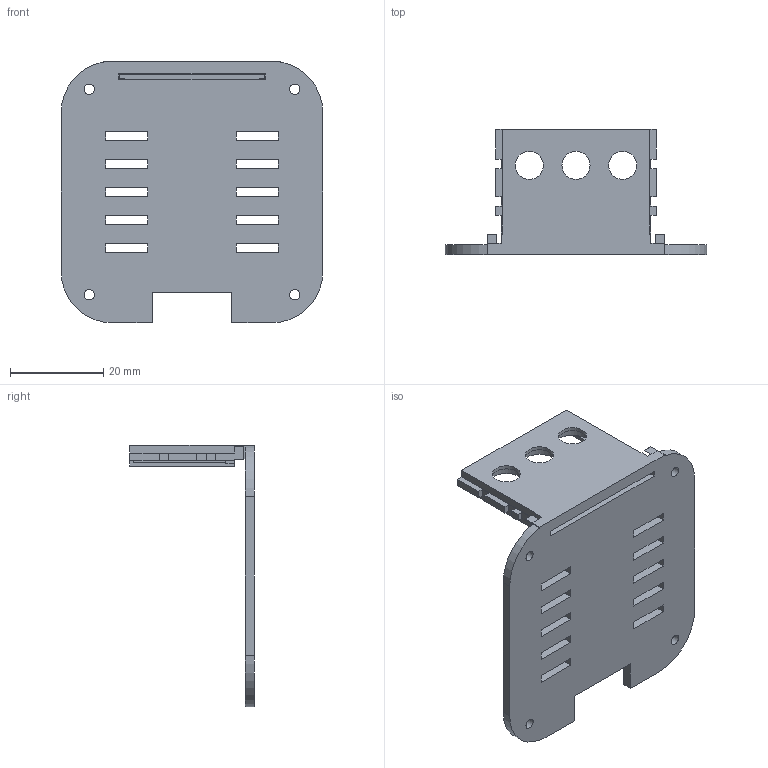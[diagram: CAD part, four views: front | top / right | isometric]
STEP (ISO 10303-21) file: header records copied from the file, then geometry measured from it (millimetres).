
FILE_DESCRIPTION(('Open CASCADE Model'),'2;1');
FILE_NAME('Open CASCADE Shape Model','2026-09-28T23:13:56',('Author'),( 'Open CASCADE'),'Open CASCADE STEP processor 7.8','Open CASCADE 7.8' ,'Unknown');
FILE_SCHEMA(('AUTOMOTIVE_DESIGN { 1 0 10303 214 1 1 1 1 }'));
Length unit declared in the file: millimetre
Products named in the file (1): Open CASCADE STEP translator 7.8 1
Bounding box: 56 x 26.7 x 56 mm (x, y, z)
Volume: 7361.1 mm3; surface area: 8694.7 mm2
Topology: 1 solids, 1 shells, 134 faces, 390 edges, 260 vertices
Faces by surface type: plane 118, cylinder 16
Full cylindrical faces by diameter (mm): 2.2 x4, 6 x3, 8.2 x3
Entity records: 9268 total; most frequent: CARTESIAN_POINT 1977, DIRECTION 1150, LINE 802, VECTOR 802, ORIENTED_EDGE 780, PCURVE 780, DEFINITIONAL_REPRESENTATION 780, EDGE_CURVE 390
